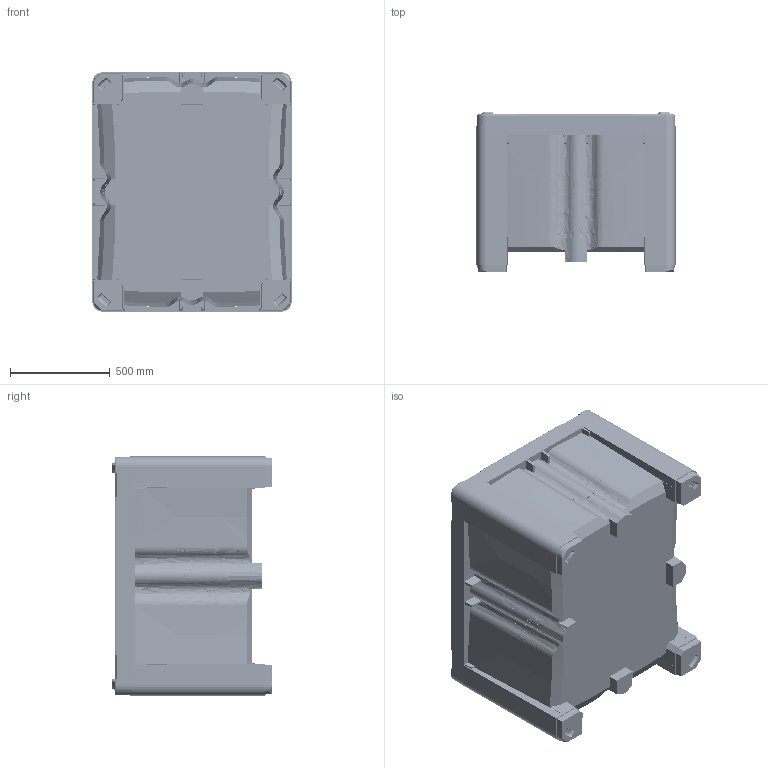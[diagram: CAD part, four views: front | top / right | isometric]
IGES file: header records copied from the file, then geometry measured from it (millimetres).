
Start section: SolidWorks IGES file using analytic representation for surfaces
Global section: file name: C:\ProdVault\Production Data\Hybrid 1012\1110xxxxxxxx 1012-790 Hybrid Block PadFoot.IGS; native system: SolidWorks 2018; preprocessor: SolidWorks 2018; author: Todd Turner; date: 180824.171350; units: millimetre
Bounding box: 1000 x 802.5 x 1200 mm (x, y, z)
Surface area: 9571368.8 mm2 (no closed solid volume)
Topology: 0 solids, 0 shells, 6115 faces, 102354 edges, 102331 vertices
Faces by surface type: bspline 5625, revolution 490
